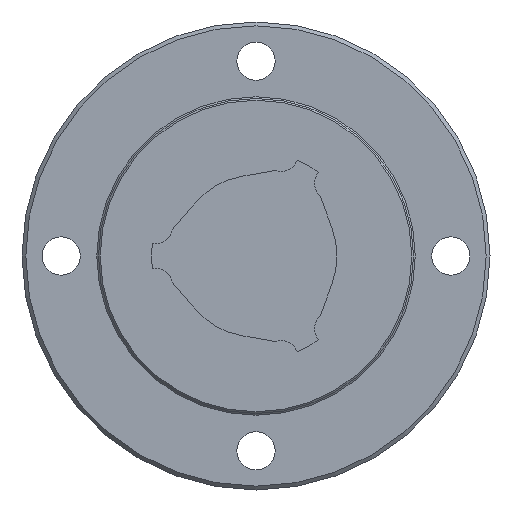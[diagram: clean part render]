
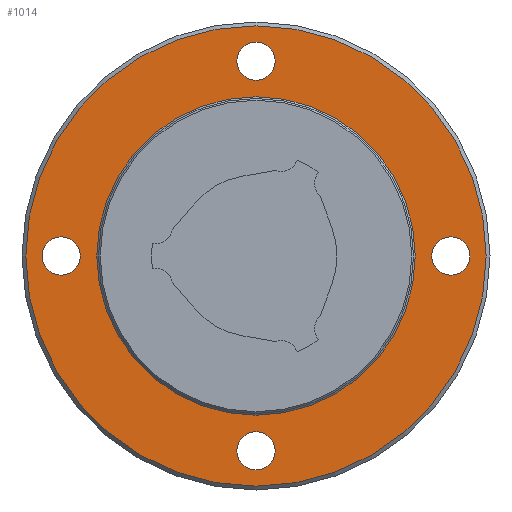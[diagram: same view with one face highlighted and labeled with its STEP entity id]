
A CAD part, left-side view. The second image highlights one B-rep face of the part: STEP entity #1014.
In plain terms, the highlighted planar face has unit normal (-1, 0, 0).
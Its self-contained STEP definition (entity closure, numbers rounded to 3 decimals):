
#49=PLANE('',#1146);
#319=ORIENTED_EDGE('',*,*,#534,.F.);
#320=ORIENTED_EDGE('',*,*,#535,.T.);
#321=ORIENTED_EDGE('',*,*,#536,.T.);
#322=ORIENTED_EDGE('',*,*,#537,.T.);
#323=ORIENTED_EDGE('',*,*,#538,.T.);
#324=ORIENTED_EDGE('',*,*,#533,.T.);
#533=EDGE_CURVE('',#651,#651,#730,.T.);
#534=EDGE_CURVE('',#652,#652,#731,.T.);
#535=EDGE_CURVE('',#653,#653,#732,.T.);
#536=EDGE_CURVE('',#654,#654,#733,.T.);
#537=EDGE_CURVE('',#655,#655,#734,.T.);
#538=EDGE_CURVE('',#656,#656,#735,.T.);
#651=VERTEX_POINT('',#1765);
#652=VERTEX_POINT('',#1768);
#653=VERTEX_POINT('',#1770);
#654=VERTEX_POINT('',#1772);
#655=VERTEX_POINT('',#1774);
#656=VERTEX_POINT('',#1776);
#730=CIRCLE('',#1145,45.75);
#731=CIRCLE('',#1147,66.15);
#732=CIRCLE('',#1148,5.5);
#733=CIRCLE('',#1149,5.5);
#734=CIRCLE('',#1150,5.5);
#735=CIRCLE('',#1151,5.5);
#795=EDGE_LOOP('',(#319));
#796=EDGE_LOOP('',(#320));
#797=EDGE_LOOP('',(#321));
#798=EDGE_LOOP('',(#322));
#799=EDGE_LOOP('',(#323));
#800=EDGE_LOOP('',(#324));
#891=FACE_BOUND('',#795,.T.);
#892=FACE_BOUND('',#796,.T.);
#893=FACE_BOUND('',#797,.T.);
#894=FACE_BOUND('',#798,.T.);
#895=FACE_BOUND('',#799,.T.);
#896=FACE_BOUND('',#800,.T.);
#1014=ADVANCED_FACE('',(#891,#892,#893,#894,#895,#896),#49,.F.);
#1145=AXIS2_PLACEMENT_3D('',#1764,#1388,#1389);
#1146=AXIS2_PLACEMENT_3D('',#1766,#1390,#1391);
#1147=AXIS2_PLACEMENT_3D('',#1767,#1392,#1393);
#1148=AXIS2_PLACEMENT_3D('',#1769,#1394,#1395);
#1149=AXIS2_PLACEMENT_3D('',#1771,#1396,#1397);
#1150=AXIS2_PLACEMENT_3D('',#1773,#1398,#1399);
#1151=AXIS2_PLACEMENT_3D('',#1775,#1400,#1401);
#1388=DIRECTION('',(1.,0.,0.));
#1389=DIRECTION('',(0.,1.,0.));
#1390=DIRECTION('',(1.,0.,0.));
#1391=DIRECTION('',(0.,1.,0.));
#1392=DIRECTION('',(1.,0.,0.));
#1393=DIRECTION('',(0.,1.,0.));
#1394=DIRECTION('',(1.,0.,0.));
#1395=DIRECTION('',(0.,0.,-1.));
#1396=DIRECTION('',(1.,0.,0.));
#1397=DIRECTION('',(0.,0.,-1.));
#1398=DIRECTION('',(1.,0.,0.));
#1399=DIRECTION('',(0.,0.,-1.));
#1400=DIRECTION('',(1.,0.,0.));
#1401=DIRECTION('',(0.,0.,-1.));
#1764=CARTESIAN_POINT('',(52.5,0.,0.));
#1765=CARTESIAN_POINT('',(52.5,45.75,0.));
#1766=CARTESIAN_POINT('',(52.5,45.75,0.));
#1767=CARTESIAN_POINT('',(52.5,0.,0.));
#1768=CARTESIAN_POINT('',(52.5,66.15,0.));
#1769=CARTESIAN_POINT('',(52.5,56.,0.));
#1770=CARTESIAN_POINT('',(52.5,56.,-5.5));
#1771=CARTESIAN_POINT('',(52.5,0.,-56.));
#1772=CARTESIAN_POINT('',(52.5,0.,-61.5));
#1773=CARTESIAN_POINT('',(52.5,0.,56.));
#1774=CARTESIAN_POINT('',(52.5,0.,50.5));
#1775=CARTESIAN_POINT('',(52.5,-56.,0.));
#1776=CARTESIAN_POINT('',(52.5,-56.,-5.5));
